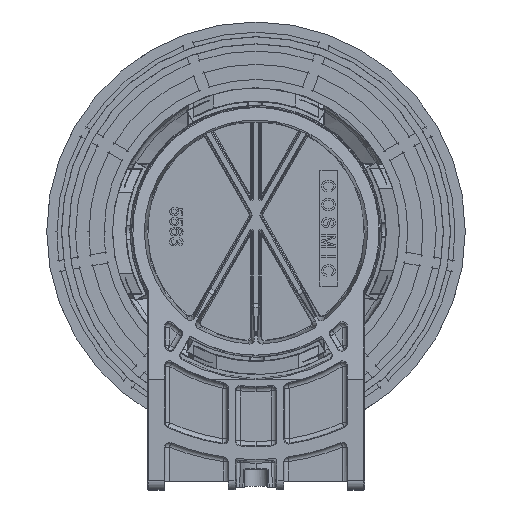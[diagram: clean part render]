
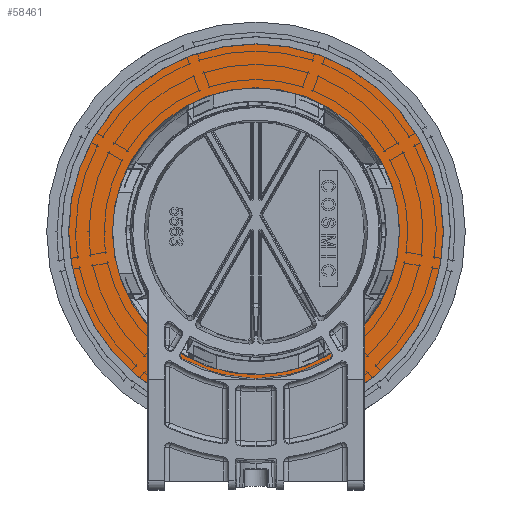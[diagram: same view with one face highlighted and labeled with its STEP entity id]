
A CAD part, front view. The second image highlights one B-rep face of the part: STEP entity #58461.
In plain terms, the highlighted planar face has unit normal (0, -1, 0).
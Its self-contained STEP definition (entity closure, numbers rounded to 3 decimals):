
#3815 = ORIENTED_EDGE ( 'NONE', *, *, #19984, .T. ) ;
#4539 = DIRECTION ( 'NONE',  ( -1., 0., 0. ) ) ;
#10686 = CARTESIAN_POINT ( 'NONE',  ( 0., -5.555, -31. ) ) ;
#11615 = CARTESIAN_POINT ( 'NONE',  ( -31., -5.555, 0. ) ) ;
#12450 = DIRECTION ( 'NONE',  ( 0., -1., 0. ) ) ;
#12838 = DIRECTION ( 'NONE',  ( 0., -1., 0. ) ) ;
#15233 = VERTEX_POINT ( 'NONE', #23822 ) ;
#17486 = CIRCLE ( 'NONE', #24079, 31. ) ;
#18084 = AXIS2_PLACEMENT_3D ( 'NONE', #70195, #12450, #48577 ) ;
#19275 = VERTEX_POINT ( 'NONE', #11615 ) ;
#19364 = EDGE_LOOP ( 'NONE', ( #3815, #69575 ) ) ;
#19984 = EDGE_CURVE ( 'NONE', #50352, #71020, #22243, .T. ) ;
#22243 = CIRCLE ( 'NONE', #18084, 40.465 ) ;
#23053 = FACE_BOUND ( 'NONE', #33754, .T. ) ;
#23369 = CARTESIAN_POINT ( 'NONE',  ( -40.465, -5.555, 0. ) ) ;
#23822 = CARTESIAN_POINT ( 'NONE',  ( 31., -5.555, 0. ) ) ;
#24079 = AXIS2_PLACEMENT_3D ( 'NONE', #81505, #64880, #65482 ) ;
#25330 = FACE_OUTER_BOUND ( 'NONE', #19364, .T. ) ;
#25740 = ORIENTED_EDGE ( 'NONE', *, *, #52871, .F. ) ;
#33754 = EDGE_LOOP ( 'NONE', ( #25740, #83291 ) ) ;
#35743 = DIRECTION ( 'NONE',  ( 0., -1., 0. ) ) ;
#36318 = CIRCLE ( 'NONE', #74942, 40.465 ) ;
#37634 = AXIS2_PLACEMENT_3D ( 'NONE', #10686, #12838, #69678 ) ;
#42553 = CARTESIAN_POINT ( 'NONE',  ( 0., -5.555, 0. ) ) ;
#42852 = DIRECTION ( 'NONE',  ( -1., 0., 0. ) ) ;
#48408 = CARTESIAN_POINT ( 'NONE',  ( 0., -5.555, 0. ) ) ;
#48577 = DIRECTION ( 'NONE',  ( -1., 0., 0. ) ) ;
#50352 = VERTEX_POINT ( 'NONE', #23369 ) ;
#51999 = CARTESIAN_POINT ( 'NONE',  ( 40.465, -5.555, 0. ) ) ;
#52871 = EDGE_CURVE ( 'NONE', #19275, #15233, #17486, .T. ) ;
#58461 = ADVANCED_FACE ( 'NONE', ( #23053, #25330 ), #75594, .T. ) ;
#63418 = AXIS2_PLACEMENT_3D ( 'NONE', #48408, #90011, #4539 ) ;
#64880 = DIRECTION ( 'NONE',  ( 0., -1., 0. ) ) ;
#65482 = DIRECTION ( 'NONE',  ( -1., 0., 0. ) ) ;
#68716 = CIRCLE ( 'NONE', #63418, 31. ) ;
#68782 = EDGE_CURVE ( 'NONE', #15233, #19275, #68716, .T. ) ;
#69575 = ORIENTED_EDGE ( 'NONE', *, *, #79810, .T. ) ;
#69678 = DIRECTION ( 'NONE',  ( -1., 0., 0. ) ) ;
#70195 = CARTESIAN_POINT ( 'NONE',  ( 0., -5.555, 0. ) ) ;
#71020 = VERTEX_POINT ( 'NONE', #51999 ) ;
#74942 = AXIS2_PLACEMENT_3D ( 'NONE', #42553, #35743, #42852 ) ;
#75594 = PLANE ( 'NONE',  #37634 ) ;
#79810 = EDGE_CURVE ( 'NONE', #71020, #50352, #36318, .T. ) ;
#81505 = CARTESIAN_POINT ( 'NONE',  ( 0., -5.555, 0. ) ) ;
#83291 = ORIENTED_EDGE ( 'NONE', *, *, #68782, .F. ) ;
#90011 = DIRECTION ( 'NONE',  ( 0., -1., 0. ) ) ;
